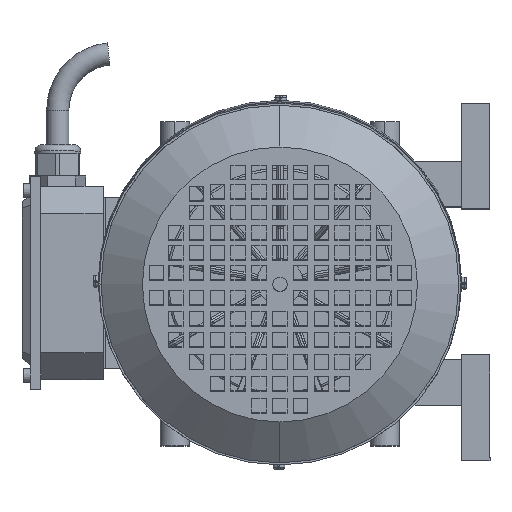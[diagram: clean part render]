
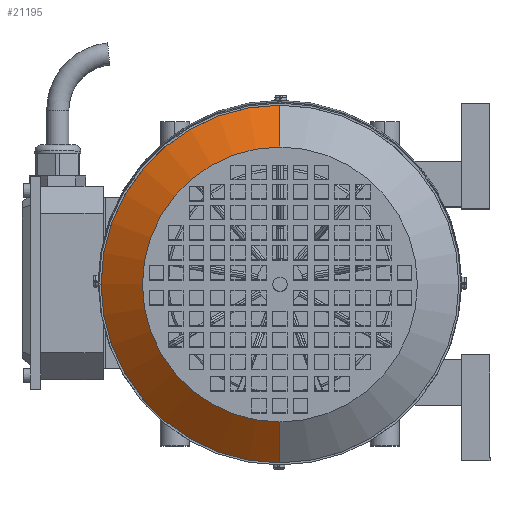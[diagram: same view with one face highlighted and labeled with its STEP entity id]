
A CAD part, top view. The second image highlights one B-rep face of the part: STEP entity #21195.
In plain terms, the highlighted conical face has half-angle 53 degrees and reference radius 86.02 mm.
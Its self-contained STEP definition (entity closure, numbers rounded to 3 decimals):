
#3318 = DIRECTION ( 'NONE',  ( 0., -1., -0.017 ) ) ;
#5582 = EDGE_LOOP ( 'NONE', ( #39279, #47684, #65794, #69050 ) ) ;
#6473 = VERTEX_POINT ( 'NONE', #18532 ) ;
#6860 = DIRECTION ( 'NONE',  ( 0., -0.017, 1. ) ) ;
#8691 = EDGE_CURVE ( 'NONE', #17914, #51619, #69306, .T. ) ;
#17914 = VERTEX_POINT ( 'NONE', #32259 ) ;
#18532 = CARTESIAN_POINT ( 'NONE',  ( 60., 144.802, 284.848 ) ) ;
#21195 = ADVANCED_FACE ( 'NONE', ( #25874 ), #50289, .T. ) ;
#24368 = CIRCLE ( 'NONE', #38248, 66.114 ) ;
#25647 = CARTESIAN_POINT ( 'NONE',  ( 60., 58.796, 283.347 ) ) ;
#25874 = FACE_OUTER_BOUND ( 'NONE', #5582, .T. ) ;
#26206 = DIRECTION ( 'NONE',  ( 0., -0.788, -0.616 ) ) ;
#26987 = CARTESIAN_POINT ( 'NONE',  ( 60., 58.796, 283.347 ) ) ;
#32259 = CARTESIAN_POINT ( 'NONE',  ( 60., -7.57, 297.191 ) ) ;
#32612 = DIRECTION ( 'NONE',  ( 0., -1., -0.017 ) ) ;
#33108 = LINE ( 'NONE', #39565, #47929 ) ;
#36916 = DIRECTION ( 'NONE',  ( 0., 0.017, -1. ) ) ;
#38083 = CARTESIAN_POINT ( 'NONE',  ( 60., -27.211, 281.845 ) ) ;
#38248 = AXIS2_PLACEMENT_3D ( 'NONE', #40404, #6860, #46006 ) ;
#39279 = ORIENTED_EDGE ( 'NONE', *, *, #53997, .F. ) ;
#39565 = CARTESIAN_POINT ( 'NONE',  ( 60., 144.802, 284.848 ) ) ;
#40404 = CARTESIAN_POINT ( 'NONE',  ( 60., 58.534, 298.344 ) ) ;
#45156 = DIRECTION ( 'NONE',  ( 0., 0.809, -0.588 ) ) ;
#46006 = DIRECTION ( 'NONE',  ( 0., -1., -0.017 ) ) ;
#47648 = CARTESIAN_POINT ( 'NONE',  ( 60., 124.638, 299.498 ) ) ;
#47684 = ORIENTED_EDGE ( 'NONE', *, *, #53668, .T. ) ;
#47929 = VECTOR ( 'NONE', #45156, 1000. ) ;
#50289 = CONICAL_SURFACE ( 'NONE', #53195, 86.02, 0.925 ) ;
#51619 = VERTEX_POINT ( 'NONE', #38083 ) ;
#53195 = AXIS2_PLACEMENT_3D ( 'NONE', #25647, #36916, #3318 ) ;
#53668 = EDGE_CURVE ( 'NONE', #66231, #6473, #33108, .T. ) ;
#53997 = EDGE_CURVE ( 'NONE', #66231, #17914, #24368, .T. ) ;
#57959 = VECTOR ( 'NONE', #26206, 1000. ) ;
#59657 = CARTESIAN_POINT ( 'NONE',  ( 60., -27.211, 281.845 ) ) ;
#65794 = ORIENTED_EDGE ( 'NONE', *, *, #68824, .T. ) ;
#66017 = DIRECTION ( 'NONE',  ( 0., -0.017, 1. ) ) ;
#66231 = VERTEX_POINT ( 'NONE', #47648 ) ;
#66246 = AXIS2_PLACEMENT_3D ( 'NONE', #26987, #66017, #32612 ) ;
#68824 = EDGE_CURVE ( 'NONE', #6473, #51619, #70062, .T. ) ;
#69050 = ORIENTED_EDGE ( 'NONE', *, *, #8691, .F. ) ;
#69306 = LINE ( 'NONE', #59657, #57959 ) ;
#70062 = CIRCLE ( 'NONE', #66246, 86.02 ) ;
